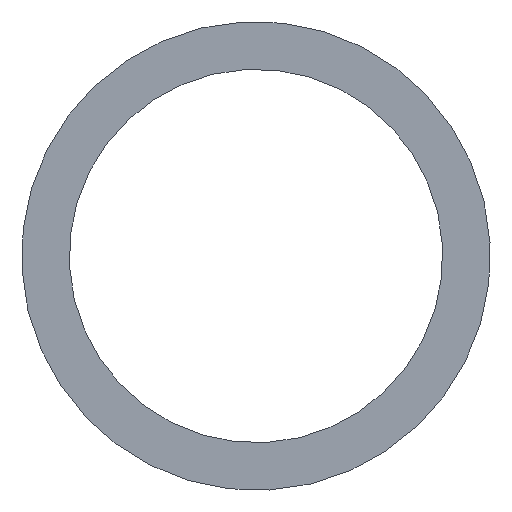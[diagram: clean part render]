
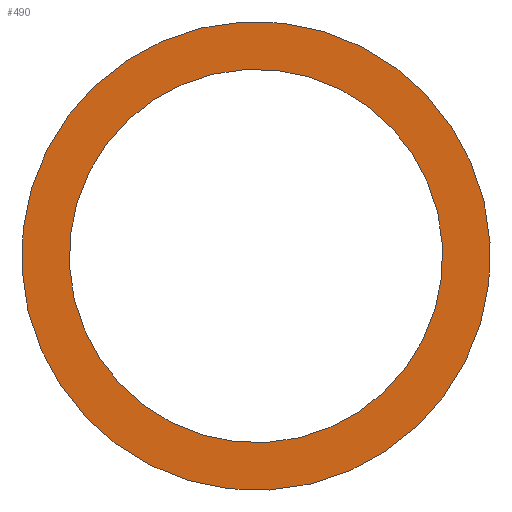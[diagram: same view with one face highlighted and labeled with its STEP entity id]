
A CAD part, left-side view. The second image highlights one B-rep face of the part: STEP entity #490.
In plain terms, the highlighted planar face has unit normal (-1, 0, 0) as drawn and (0, 0, -1) by its records, which use the part's own axes.
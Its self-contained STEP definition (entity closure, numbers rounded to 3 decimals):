
#10 = CIRCLE ( 'NONE', #223, 32. ) ;
#32 = DIRECTION ( 'NONE',  ( 1., 0., 0. ) ) ;
#53 = EDGE_CURVE ( 'NONE', #310, #442, #358, .T. ) ;
#63 = DIRECTION ( 'NONE',  ( 1., 0., 0. ) ) ;
#104 = AXIS2_PLACEMENT_3D ( 'NONE', #290, #448, #32 ) ;
#126 = CIRCLE ( 'NONE', #136, 32. ) ;
#136 = AXIS2_PLACEMENT_3D ( 'NONE', #506, #307, #63 ) ;
#169 = ORIENTED_EDGE ( 'NONE', *, *, #446, .T. ) ;
#173 = EDGE_CURVE ( 'NONE', #304, #318, #10, .T. ) ;
#177 = CARTESIAN_POINT ( 'NONE',  ( 0., 0., 0. ) ) ;
#181 = DIRECTION ( 'NONE',  ( 1., 0., 0. ) ) ;
#219 = PLANE ( 'NONE',  #508 ) ;
#223 = AXIS2_PLACEMENT_3D ( 'NONE', #177, #381, #302 ) ;
#224 = FACE_OUTER_BOUND ( 'NONE', #333, .T. ) ;
#229 = FACE_BOUND ( 'NONE', #422, .T. ) ;
#234 = CARTESIAN_POINT ( 'NONE',  ( 25.5, 0., 0. ) ) ;
#235 = DIRECTION ( 'NONE',  ( 1., 0., 0. ) ) ;
#261 = CARTESIAN_POINT ( 'NONE',  ( 0., 0., 0. ) ) ;
#286 = AXIS2_PLACEMENT_3D ( 'NONE', #371, #320, #235 ) ;
#290 = CARTESIAN_POINT ( 'NONE',  ( 0., 0., 0. ) ) ;
#302 = DIRECTION ( 'NONE',  ( 1., 0., 0. ) ) ;
#304 = VERTEX_POINT ( 'NONE', #528 ) ;
#307 = DIRECTION ( 'NONE',  ( 0., 0., 1. ) ) ;
#310 = VERTEX_POINT ( 'NONE', #234 ) ;
#318 = VERTEX_POINT ( 'NONE', #402 ) ;
#320 = DIRECTION ( 'NONE',  ( 0., 0., 1. ) ) ;
#326 = ORIENTED_EDGE ( 'NONE', *, *, #173, .F. ) ;
#333 = EDGE_LOOP ( 'NONE', ( #359, #326 ) ) ;
#358 = CIRCLE ( 'NONE', #286, 25.5 ) ;
#359 = ORIENTED_EDGE ( 'NONE', *, *, #471, .F. ) ;
#370 = CIRCLE ( 'NONE', #104, 25.5 ) ;
#371 = CARTESIAN_POINT ( 'NONE',  ( 0., 0., 0. ) ) ;
#381 = DIRECTION ( 'NONE',  ( 0., 0., 1. ) ) ;
#391 = DIRECTION ( 'NONE',  ( 0., 0., 1. ) ) ;
#402 = CARTESIAN_POINT ( 'NONE',  ( -32., 0., 0. ) ) ;
#422 = EDGE_LOOP ( 'NONE', ( #169, #472 ) ) ;
#442 = VERTEX_POINT ( 'NONE', #515 ) ;
#446 = EDGE_CURVE ( 'NONE', #442, #310, #370, .T. ) ;
#448 = DIRECTION ( 'NONE',  ( 0., 0., 1. ) ) ;
#471 = EDGE_CURVE ( 'NONE', #318, #304, #126, .T. ) ;
#472 = ORIENTED_EDGE ( 'NONE', *, *, #53, .T. ) ;
#490 = ADVANCED_FACE ( 'NONE', ( #224, #229 ), #219, .F. ) ;
#506 = CARTESIAN_POINT ( 'NONE',  ( 0., 0., 0. ) ) ;
#508 = AXIS2_PLACEMENT_3D ( 'NONE', #261, #391, #181 ) ;
#515 = CARTESIAN_POINT ( 'NONE',  ( -25.5, 0., 0. ) ) ;
#528 = CARTESIAN_POINT ( 'NONE',  ( 32., 0., 0. ) ) ;
